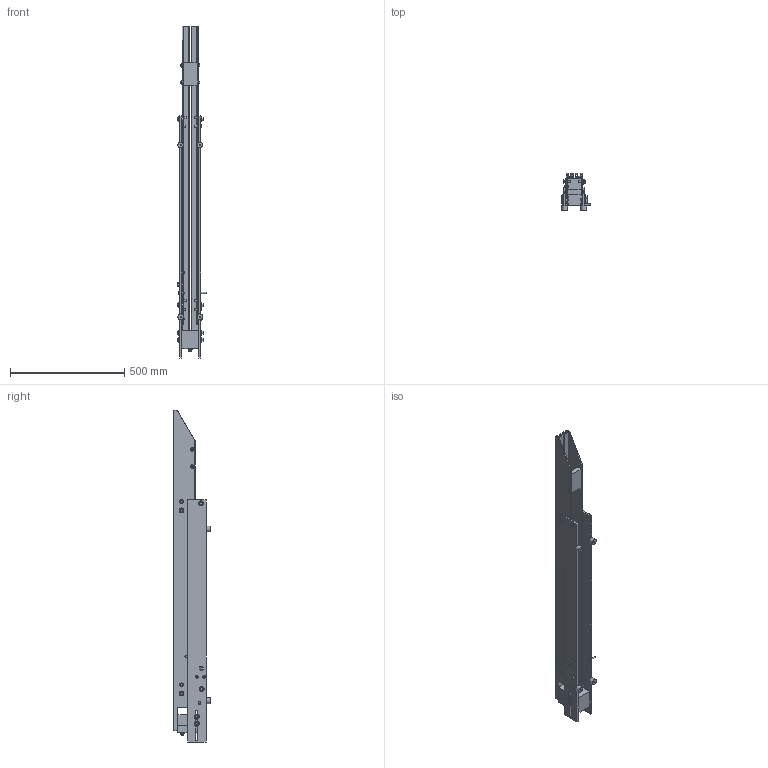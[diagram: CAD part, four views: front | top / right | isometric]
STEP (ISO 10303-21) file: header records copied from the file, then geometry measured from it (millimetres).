
FILE_DESCRIPTION( ( 'STEP AP214' ), ' ' );
FILE_NAME( 'C:/Users/pbuholc/AppData/Local/Temp/psolqas1217274817.stp', '2017-02-27T11:17:27', ( '' ), ( '' ), ' ', 'PARTsolutions', ' ' );
FILE_SCHEMA( ( 'AUTOMOTIVE_DESIGN { 1 0 10303 214 1 1 1 1 }' ) );
Length unit declared in the file: metre
Products named in the file (1): Defeature ausgeführt1
Bounding box: 129.99 x 162.5 x 1450 mm (x, y, z)
Volume: 4027452 mm3; surface area: 1257767.4 mm2
Topology: 1 solids, 1 shells, 399 faces, 911 edges, 591 vertices
Faces by surface type: plane 207, cylinder 120, cone 55, sphere 8, torus 8, bspline 1
Full cylindrical faces by diameter (mm): 5 x4, 6 x8, 8 x12, 9.9 x1, 10 x6, 12 x6, 13 x14, 16 x10, 21 x12, 25 x4
Entity records: 10442 total; most frequent: CARTESIAN_POINT 2066, DIRECTION 1814, ORIENTED_EDGE 1436, AXIS2_PLACEMENT_3D 724, EDGE_CURVE 718, EDGE_LOOP 629, VERTEX_POINT 535, FACE_OUTER_BOUND 481
